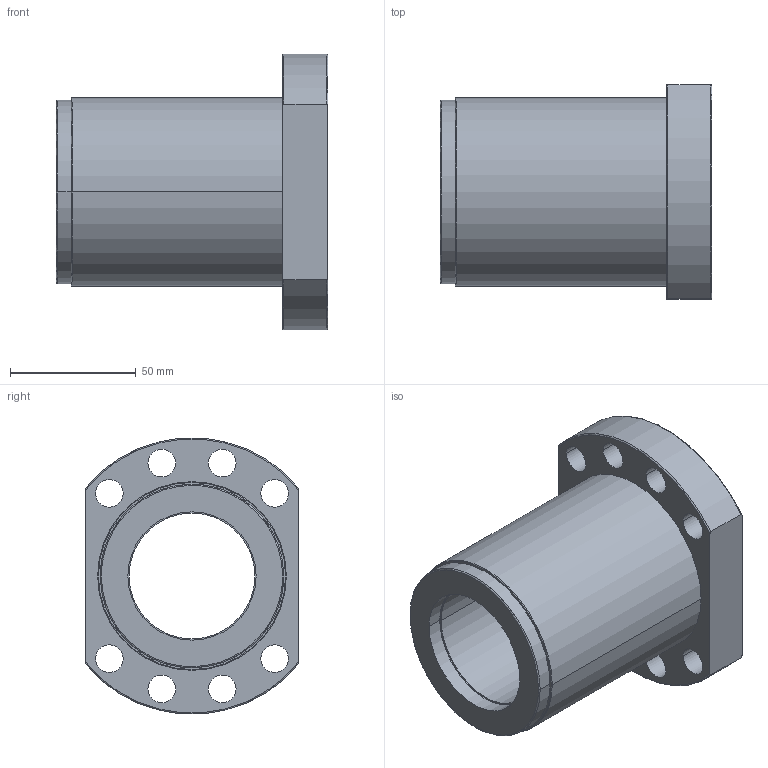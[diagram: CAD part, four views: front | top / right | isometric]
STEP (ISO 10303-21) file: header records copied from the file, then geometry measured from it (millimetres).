
FILE_DESCRIPTION (( 'STEP AP214' ), '1' );
FILE_NAME ('2.3010 Kuularuuvimutteri SFS5020-3,8.STEP', '2024-05-03T11:45:29', ( '' ), ( '' ), 'SwSTEP 2.0', 'SolidWorks 2024', '' );
FILE_SCHEMA (( 'AUTOMOTIVE_DESIGN' ));
Length unit declared in the file: millimetre
Products named in the file (1): 2.3010 Kuularuuvimutteri SFS5020-3,8
Bounding box: 108 x 85 x 109.65 mm (x, y, z)
Volume: 316671.6 mm3; surface area: 71509.4 mm2
Topology: 3 solids, 3 shells, 58 faces, 138 edges, 90 vertices
Faces by surface type: cylinder 36, plane 12, torus 10
Entity records: 2699 total; most frequent: CARTESIAN_POINT 1119, DIRECTION 328, ORIENTED_EDGE 276, AXIS2_PLACEMENT_3D 143, EDGE_CURVE 138, VERTEX_POINT 90, CIRCLE 84, EDGE_LOOP 84
